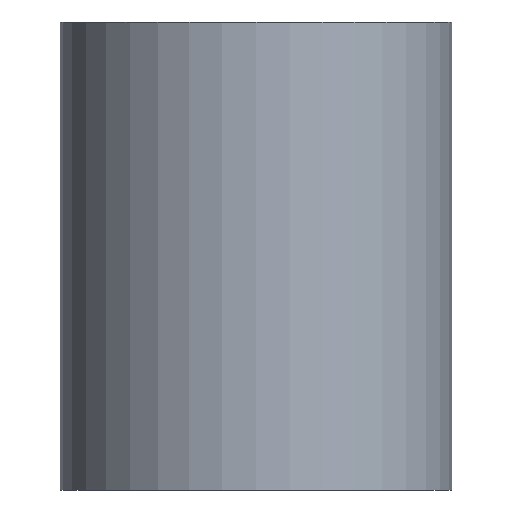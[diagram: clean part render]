
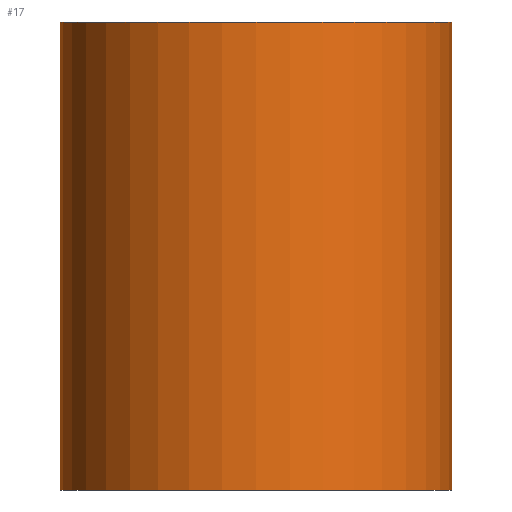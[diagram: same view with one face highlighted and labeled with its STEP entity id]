
A CAD part, front view. The second image highlights one B-rep face of the part: STEP entity #17.
In plain terms, the highlighted cylindrical face has radius 16.75 mm (diameter 33.5 mm), a full revolution.
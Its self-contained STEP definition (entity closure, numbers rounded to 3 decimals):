
#17 = ADVANCED_FACE('',(#18),#45,.T.);
#18 = FACE_BOUND('',#19,.T.);
#19 = EDGE_LOOP('',(#20,#29,#37,#44));
#20 = ORIENTED_EDGE('',*,*,#21,.F.);
#21 = EDGE_CURVE('',#22,#22,#24,.T.);
#22 = VERTEX_POINT('',#23);
#23 = CARTESIAN_POINT('',(33.5,16.75,40.));
#24 = CIRCLE('',#25,16.75);
#25 = AXIS2_PLACEMENT_3D('',#26,#27,#28);
#26 = CARTESIAN_POINT('',(16.75,16.75,40.));
#27 = DIRECTION('',(0.,0.,1.));
#28 = DIRECTION('',(1.,0.,0.));
#29 = ORIENTED_EDGE('',*,*,#30,.F.);
#30 = EDGE_CURVE('',#31,#22,#33,.T.);
#31 = VERTEX_POINT('',#32);
#32 = CARTESIAN_POINT('',(33.5,16.75,0.));
#33 = LINE('',#34,#35);
#34 = CARTESIAN_POINT('',(33.5,16.75,0.));
#35 = VECTOR('',#36,1.);
#36 = DIRECTION('',(0.,0.,1.));
#37 = ORIENTED_EDGE('',*,*,#38,.T.);
#38 = EDGE_CURVE('',#31,#31,#39,.T.);
#39 = CIRCLE('',#40,16.75);
#40 = AXIS2_PLACEMENT_3D('',#41,#42,#43);
#41 = CARTESIAN_POINT('',(16.75,16.75,0.));
#42 = DIRECTION('',(0.,0.,1.));
#43 = DIRECTION('',(1.,0.,0.));
#44 = ORIENTED_EDGE('',*,*,#30,.T.);
#45 = CYLINDRICAL_SURFACE('',#46,16.75);
#46 = AXIS2_PLACEMENT_3D('',#47,#48,#49);
#47 = CARTESIAN_POINT('',(16.75,16.75,0.));
#48 = DIRECTION('',(0.,0.,1.));
#49 = DIRECTION('',(1.,0.,0.));
